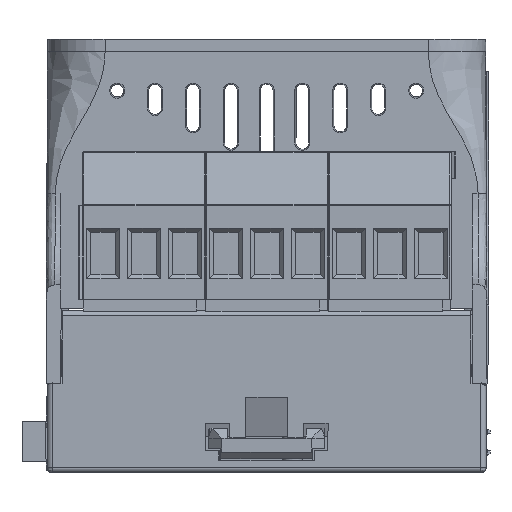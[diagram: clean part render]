
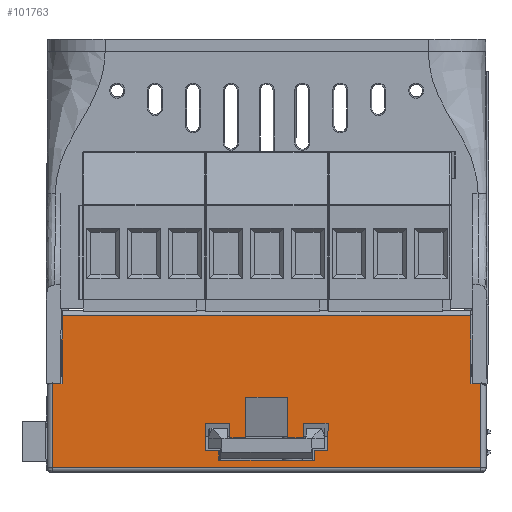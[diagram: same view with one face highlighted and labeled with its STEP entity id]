
A CAD part, front view. The second image highlights one B-rep face of the part: STEP entity #101763.
In plain terms, the highlighted planar face has unit normal (0, -1, 0).
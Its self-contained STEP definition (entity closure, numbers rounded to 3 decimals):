
#706=FACE_BOUND('',#15537,.T.);
#5159=PLANE('',#107659);
#10055=FACE_OUTER_BOUND('',#15536,.T.);
#15536=EDGE_LOOP('',(#81145,#81146,#81147,#81148,#81149,#81150,#81151,#81152,
#81153,#81154));
#15537=EDGE_LOOP('',(#81155,#81156,#81157,#81158,#81159,#81160,#81161,#81162,
#81163,#81164,#81165,#81166,#81167,#81168,#81169,#81170));
#24002=LINE('',#157878,#36037);
#24168=LINE('',#159773,#36203);
#24182=LINE('',#159991,#36217);
#24185=LINE('',#160002,#36220);
#24206=LINE('',#160054,#36241);
#24763=LINE('',#161362,#36798);
#24766=LINE('',#161367,#36801);
#24768=LINE('',#161371,#36803);
#24770=LINE('',#161375,#36805);
#24774=LINE('',#161381,#36809);
#24776=LINE('',#161385,#36811);
#24777=LINE('',#161388,#36812);
#24780=LINE('',#161393,#36815);
#24782=LINE('',#161397,#36817);
#24784=LINE('',#161401,#36819);
#24787=LINE('',#161406,#36822);
#24789=LINE('',#161410,#36824);
#24792=LINE('',#161415,#36827);
#24793=LINE('',#161418,#36828);
#24795=LINE('',#161422,#36830);
#24797=LINE('',#161425,#36832);
#24798=LINE('',#161428,#36833);
#24992=LINE('',#161934,#37027);
#24994=LINE('',#161937,#37029);
#25013=LINE('',#161981,#37048);
#25014=LINE('',#161983,#37049);
#36037=VECTOR('',#121784,1.);
#36203=VECTOR('',#122252,1.);
#36217=VECTOR('',#122294,1.);
#36220=VECTOR('',#122307,1.);
#36241=VECTOR('',#122344,1.);
#36798=VECTOR('',#123505,1.);
#36801=VECTOR('',#123510,1.);
#36803=VECTOR('',#123514,1.);
#36805=VECTOR('',#123518,1.);
#36809=VECTOR('',#123524,1.);
#36811=VECTOR('',#123528,1.);
#36812=VECTOR('',#123531,1.);
#36815=VECTOR('',#123536,1.);
#36817=VECTOR('',#123540,1.);
#36819=VECTOR('',#123544,1.);
#36822=VECTOR('',#123549,1.);
#36824=VECTOR('',#123553,1.);
#36827=VECTOR('',#123558,1.);
#36828=VECTOR('',#123561,1.);
#36830=VECTOR('',#123565,1.);
#36832=VECTOR('',#123569,1.);
#36833=VECTOR('',#123572,1.);
#37027=VECTOR('',#124054,1.);
#37029=VECTOR('',#124058,1.);
#37048=VECTOR('',#124105,1.);
#37049=VECTOR('',#124108,1.);
#46753=VERTEX_POINT('',#157079);
#46842=VERTEX_POINT('',#157876);
#46979=VERTEX_POINT('',#159770);
#46980=VERTEX_POINT('',#159772);
#46990=VERTEX_POINT('',#159989);
#46993=VERTEX_POINT('',#160001);
#47015=VERTEX_POINT('',#160051);
#47016=VERTEX_POINT('',#160053);
#47437=VERTEX_POINT('',#161269);
#47455=VERTEX_POINT('',#161359);
#47456=VERTEX_POINT('',#161361);
#47457=VERTEX_POINT('',#161365);
#47458=VERTEX_POINT('',#161369);
#47459=VERTEX_POINT('',#161374);
#47460=VERTEX_POINT('',#161379);
#47461=VERTEX_POINT('',#161383);
#47462=VERTEX_POINT('',#161387);
#47463=VERTEX_POINT('',#161392);
#47464=VERTEX_POINT('',#161396);
#47465=VERTEX_POINT('',#161400);
#47466=VERTEX_POINT('',#161405);
#47467=VERTEX_POINT('',#161409);
#47468=VERTEX_POINT('',#161413);
#47469=VERTEX_POINT('',#161417);
#47470=VERTEX_POINT('',#161421);
#47471=VERTEX_POINT('',#161427);
#58278=EDGE_CURVE('',#46753,#46842,#24002,.T.);
#58530=EDGE_CURVE('',#46980,#46979,#24168,.T.);
#58554=EDGE_CURVE('',#46842,#46990,#24182,.T.);
#58559=EDGE_CURVE('',#46993,#46980,#24185,.T.);
#58584=EDGE_CURVE('',#47016,#47015,#24206,.T.);
#59242=EDGE_CURVE('',#47456,#47455,#24763,.T.);
#59245=EDGE_CURVE('',#47457,#47456,#24766,.T.);
#59247=EDGE_CURVE('',#47457,#47458,#24768,.T.);
#59249=EDGE_CURVE('',#47458,#47459,#24770,.T.);
#59253=EDGE_CURVE('',#47460,#47459,#24774,.T.);
#59255=EDGE_CURVE('',#47460,#47461,#24776,.T.);
#59256=EDGE_CURVE('',#47462,#47461,#24777,.T.);
#59259=EDGE_CURVE('',#47462,#47463,#24780,.T.);
#59261=EDGE_CURVE('',#47464,#47463,#24782,.T.);
#59263=EDGE_CURVE('',#47464,#47465,#24784,.T.);
#59266=EDGE_CURVE('',#47465,#47466,#24787,.T.);
#59268=EDGE_CURVE('',#47467,#47466,#24789,.T.);
#59271=EDGE_CURVE('',#47468,#47467,#24792,.T.);
#59272=EDGE_CURVE('',#47469,#47468,#24793,.T.);
#59274=EDGE_CURVE('',#47470,#47469,#24795,.T.);
#59276=EDGE_CURVE('',#47455,#47470,#24797,.T.);
#59277=EDGE_CURVE('',#47471,#47437,#24798,.T.);
#59505=EDGE_CURVE('',#47437,#46753,#24992,.T.);
#59507=EDGE_CURVE('',#46990,#47016,#24994,.T.);
#59529=EDGE_CURVE('',#46993,#47015,#25013,.T.);
#59530=EDGE_CURVE('',#46979,#47471,#25014,.T.);
#81145=ORIENTED_EDGE('',*,*,#59530,.T.);
#81146=ORIENTED_EDGE('',*,*,#59277,.T.);
#81147=ORIENTED_EDGE('',*,*,#59505,.T.);
#81148=ORIENTED_EDGE('',*,*,#58278,.T.);
#81149=ORIENTED_EDGE('',*,*,#58554,.T.);
#81150=ORIENTED_EDGE('',*,*,#59507,.T.);
#81151=ORIENTED_EDGE('',*,*,#58584,.T.);
#81152=ORIENTED_EDGE('',*,*,#59529,.F.);
#81153=ORIENTED_EDGE('',*,*,#58559,.T.);
#81154=ORIENTED_EDGE('',*,*,#58530,.T.);
#81155=ORIENTED_EDGE('',*,*,#59276,.T.);
#81156=ORIENTED_EDGE('',*,*,#59274,.T.);
#81157=ORIENTED_EDGE('',*,*,#59272,.T.);
#81158=ORIENTED_EDGE('',*,*,#59271,.T.);
#81159=ORIENTED_EDGE('',*,*,#59268,.T.);
#81160=ORIENTED_EDGE('',*,*,#59266,.F.);
#81161=ORIENTED_EDGE('',*,*,#59263,.F.);
#81162=ORIENTED_EDGE('',*,*,#59261,.T.);
#81163=ORIENTED_EDGE('',*,*,#59259,.F.);
#81164=ORIENTED_EDGE('',*,*,#59256,.T.);
#81165=ORIENTED_EDGE('',*,*,#59255,.F.);
#81166=ORIENTED_EDGE('',*,*,#59253,.T.);
#81167=ORIENTED_EDGE('',*,*,#59249,.F.);
#81168=ORIENTED_EDGE('',*,*,#59247,.F.);
#81169=ORIENTED_EDGE('',*,*,#59245,.T.);
#81170=ORIENTED_EDGE('',*,*,#59242,.T.);
#101763=ADVANCED_FACE('',(#10055,#706),#5159,.F.);
#107659=AXIS2_PLACEMENT_3D('',#161982,#124106,#124107);
#121784=DIRECTION('',(-1.,0.,0.));
#122252=DIRECTION('',(-1.,0.,0.));
#122294=DIRECTION('',(-1.,0.,0.));
#122307=DIRECTION('',(-1.,0.,0.));
#122344=DIRECTION('',(-1.,0.,0.));
#123505=DIRECTION('',(1.,0.,0.));
#123510=DIRECTION('',(-0.009,0.,-1.));
#123514=DIRECTION('',(-1.,0.,0.009));
#123518=DIRECTION('',(0.009,0.,-1.));
#123524=DIRECTION('',(-1.,0.,0.));
#123528=DIRECTION('',(0.009,0.,-1.));
#123531=DIRECTION('',(-1.,0.,0.));
#123536=DIRECTION('',(0.009,0.,1.));
#123540=DIRECTION('',(-1.,0.,0.));
#123544=DIRECTION('',(0.009,0.,1.));
#123549=DIRECTION('',(-1.,0.,-0.009));
#123553=DIRECTION('',(-0.009,0.,1.));
#123558=DIRECTION('',(1.,0.,0.));
#123561=DIRECTION('',(0.,0.,-1.));
#123565=DIRECTION('',(1.,0.,0.));
#123569=DIRECTION('',(0.,0.,1.));
#123572=DIRECTION('',(1.,0.,0.));
#124054=DIRECTION('',(0.,0.,1.));
#124058=DIRECTION('',(0.,0.,1.));
#124105=DIRECTION('',(0.,0.,1.));
#124106=DIRECTION('center_axis',(0.,1.,0.));
#124107=DIRECTION('ref_axis',(0.,0.,
1.));
#124108=DIRECTION('',(0.,0.,-1.));
#157079=CARTESIAN_POINT('',(26.15,-44.644,4.871));
#157876=CARTESIAN_POINT('',(25.14,-44.644,4.871));
#157878=CARTESIAN_POINT('',(25.908,-44.644,4.871));
#159770=CARTESIAN_POINT('',(-26.15,-44.644,4.871));
#159772=CARTESIAN_POINT('',(-25.14,-44.644,4.871));
#159773=CARTESIAN_POINT('',(-25.908,-44.644,4.871));
#159989=CARTESIAN_POINT('',(24.941,-44.644,4.871));
#159991=CARTESIAN_POINT('',(25.908,-44.644,4.871));
#160001=CARTESIAN_POINT('',(-24.941,-44.644,4.871));
#160002=CARTESIAN_POINT('',(-25.908,-44.644,4.871));
#160051=CARTESIAN_POINT('',(-24.941,-44.644,13.156));
#160053=CARTESIAN_POINT('',(24.941,-44.644,13.156));
#160054=CARTESIAN_POINT('',(-38.979,-44.644,13.156));
#161269=CARTESIAN_POINT('',(26.15,-44.644,-5.4));
#161359=CARTESIAN_POINT('',(-2.55,-44.644,-1.725));
#161361=CARTESIAN_POINT('',(-4.498,-44.644,-1.725));
#161362=CARTESIAN_POINT('',(38.979,-44.644,-1.725));
#161365=CARTESIAN_POINT('',(-4.483,-44.644,-0.015));
#161367=CARTESIAN_POINT('',(-4.443,-44.644,4.558));
#161369=CARTESIAN_POINT('',(-7.496,-44.644,0.011));
#161371=CARTESIAN_POINT('',(-3.784,-44.644,-0.021));
#161374=CARTESIAN_POINT('',(-7.467,-44.644,-3.32));
#161375=CARTESIAN_POINT('',(-7.645,-44.644,17.1));
#161379=CARTESIAN_POINT('',(-5.867,-44.644,-3.32));
#161381=CARTESIAN_POINT('',(-3.728,-44.644,-3.32));
#161383=CARTESIAN_POINT('',(-5.857,-44.644,-4.5));
#161385=CARTESIAN_POINT('',(-5.855,-44.644,-4.646));
#161387=CARTESIAN_POINT('',(5.857,-44.644,-4.5));
#161388=CARTESIAN_POINT('',(-38.979,-44.644,-4.5));
#161392=CARTESIAN_POINT('',(5.867,-44.644,-3.32));
#161393=CARTESIAN_POINT('',(5.855,-44.644,-4.646));
#161396=CARTESIAN_POINT('',(7.467,-44.644,-3.32));
#161397=CARTESIAN_POINT('',(3.728,-44.644,-3.32));
#161400=CARTESIAN_POINT('',(7.496,-44.644,0.011));
#161401=CARTESIAN_POINT('',(7.645,-44.644,17.1));
#161405=CARTESIAN_POINT('',(4.483,-44.644,-0.015));
#161406=CARTESIAN_POINT('',(3.784,-44.644,-0.021));
#161409=CARTESIAN_POINT('',(4.498,-44.644,-1.725));
#161410=CARTESIAN_POINT('',(4.443,-44.644,4.558));
#161413=CARTESIAN_POINT('',(2.55,-44.644,-1.725));
#161415=CARTESIAN_POINT('',(-38.979,-44.644,-1.725));
#161417=CARTESIAN_POINT('',(2.55,-44.644,3.175));
#161418=CARTESIAN_POINT('',(2.55,-44.644,6.016));
#161421=CARTESIAN_POINT('',(-2.55,-44.644,3.175));
#161422=CARTESIAN_POINT('',(-38.979,-44.644,3.175));
#161425=CARTESIAN_POINT('',(-2.55,-44.644,6.016));
#161427=CARTESIAN_POINT('',(-26.15,-44.644,-5.4));
#161428=CARTESIAN_POINT('',(26.15,-44.644,-5.4));
#161934=CARTESIAN_POINT('',(26.15,-44.644,17.506));
#161937=CARTESIAN_POINT('',(24.941,-44.644,17.506));
#161981=CARTESIAN_POINT('',(-24.941,-44.644,17.506));
#161982=CARTESIAN_POINT('Origin',(-38.979,-44.644,17.506));
#161983=CARTESIAN_POINT('',(-26.15,-44.644,17.506));
